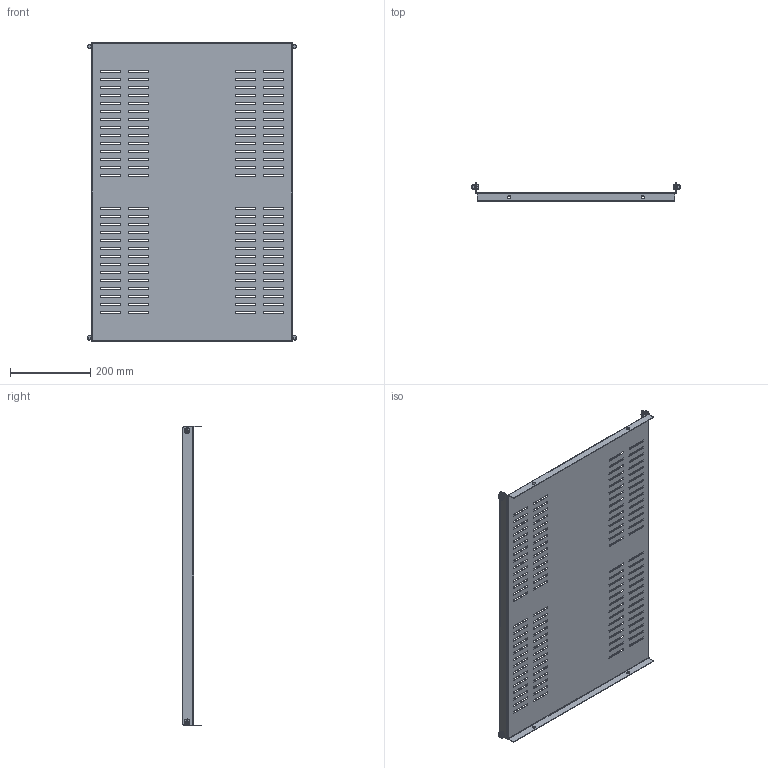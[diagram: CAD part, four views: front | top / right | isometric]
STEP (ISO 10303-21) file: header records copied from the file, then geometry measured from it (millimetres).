
FILE_DESCRIPTION (( 'STEP AP203' ), '1' );
FILE_NAME ('R5RF680.STEP', '2019-08-07T13:33:59', ( '' ), ( '' ), 'SwSTEP 2.0', 'SolidWorks 2017', '' );
FILE_SCHEMA (( 'CONFIG_CONTROL_DESIGN' ));
Length unit declared in the file: millimetre
Products named in the file (13): A3400008; QB09C404; A1100004; R5RF680
Assembly tree (9 placements, depth 2):
  A3400008
  A1100004
  A3400008
  A1100004
  A3400008
Bounding box: 520 x 45 x 744 mm (x, y, z)
Volume: 600587.4 mm3; surface area: 822758.8 mm2
Topology: 9 solids, 9 shells, 1170 faces, 3340 edges, 2188 vertices
Faces by surface type: plane 834, cylinder 248, cone 72, torus 16
Entity records: 24112 total; most frequent: CARTESIAN_POINT 4289, ORIENTED_EDGE 3968, DIRECTION 3510, EDGE_CURVE 1984, VECTOR 1728, LINE 1728, VERTEX_POINT 1306, EDGE_LOOP 930
